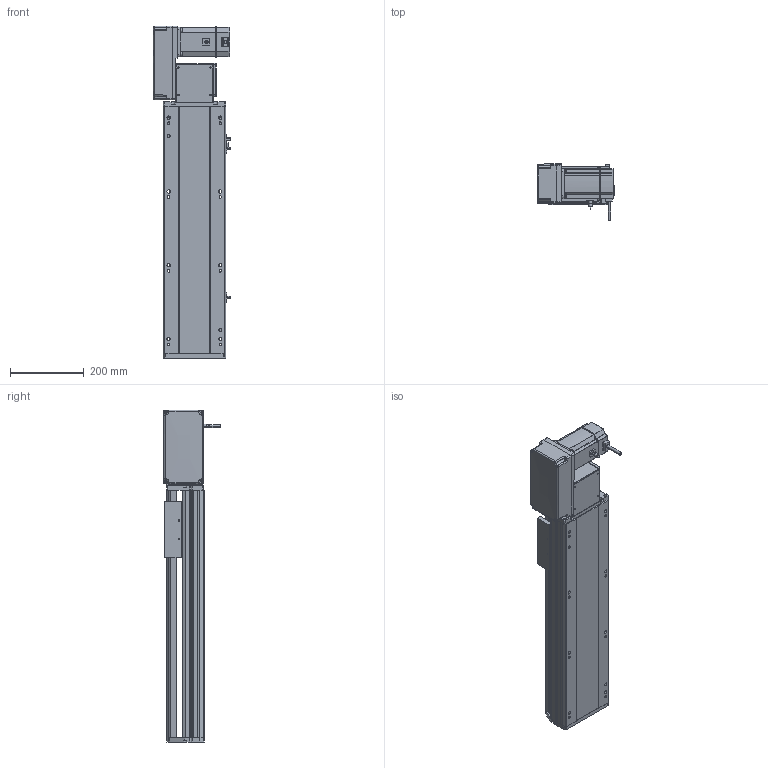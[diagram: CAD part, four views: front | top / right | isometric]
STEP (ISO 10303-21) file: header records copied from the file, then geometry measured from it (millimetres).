
FILE_DESCRIPTION (( 'STEP AP214' ), '1' );
FILE_NAME ('RTB17S-XX-400-L-M75-C4.STEP', '2025-12-12T00:08:30', ( '' ), ( '' ), 'SwSTEP 2.0', 'SolidWorks 2018', '' );
FILE_SCHEMA (( 'AUTOMOTIVE_DESIGN' ));
Length unit declared in the file: millimetre
Products named in the file (15): RTB17S-XX-400-L-M75-C4; 750W萇儂^RTB17S-XX-XX-L-M75-C4; RTB17S-L-007奻裔^RTB17S-XX-XX-L-M75-C4; RTB17S-L-004-賑釱^RTB17S-賑釱_RTB17S-XX-XX-L-M75-C4; RTB17S-L-001-耜醱啣^RTB17S-XX-XX-L-M75-C4; RTB17S-賑釱^RTB17S-XX-XX-L-M75-C4; EE672^RTB17S-XX-XX-L-M75-C4; RTB22S-GY-018P^RTB17S-L-々湍釱蚾饜-750W_RTB17S-XX-XX-L-M75-C4; RTB17S-L-々湍釱蚾饜-750W^RTB17S-XX-XX-L-M75-C4; RTB17-R-011菁釱^RTB17S-XX-XX-L-M75-C4; RTB22S-GY-008-M75--萇儂啣^RTB17S-L-々湍釱蚾饜-750W_RTB17S-XX-XX-L-M75-C4; RTB22S-GY-017P^RTB17S-L-々湍釱蚾饜-750W_RTB17S-XX-XX-L-M75-C4; RMP17S-L-014-T20-P75--々湍釱^RTB17S-L-々湍釱蚾饜-750W_RTB17S-XX-XX-L-M75-C4; RTH13-BL-012覜茼え俋离^RTB17S-賑釱_RTB17S-XX-XX-L-M75-C4; RTB22S-GY-005P^RTB17S-L-々湍釱蚾饜-750W_RTB17S-XX-XX-L-M75-C4
Assembly tree (17 placements, depth 3):
  RTB17S-XX-400-L-M75-C4
    RTB17-R-011菁釱^RTB17S-XX-XX-L-M75-C4
    EE672^RTB17S-XX-XX-L-M75-C4  x3
    RTB17S-L-001-耜醱啣^RTB17S-XX-XX-L-M75-C4
    RTB17S-賑釱^RTB17S-XX-XX-L-M75-C4
      RTB17S-L-004-賑釱^RTB17S-賑釱_RTB17S-XX-XX-L-M75-C4
      RTH13-BL-012覜茼え俋离^RTB17S-賑釱_RTB17S-XX-XX-L-M75-C4
    RTB17S-L-007奻裔^RTB17S-XX-XX-L-M75-C4
    750W萇儂^RTB17S-XX-XX-L-M75-C4
    RTB17S-L-々湍釱蚾饜-750W^RTB17S-XX-XX-L-M75-C4
      RMP17S-L-014-T20-P75--々湍釱^RTB17S-L-々湍釱蚾饜-750W_RTB17S-XX-XX-L-M75-C4
      RTB22S-GY-005P^RTB17S-L-々湍釱蚾饜-750W_RTB17S-XX-XX-L-M75-C4
      RTB22S-GY-017P^RTB17S-L-々湍釱蚾饜-750W_RTB17S-XX-XX-L-M75-C4  x2
      RTB22S-GY-008-M75--萇儂啣^RTB17S-L-々湍釱蚾饜-750W_RTB17S-XX-XX-L-M75-C4
      RTB22S-GY-018P^RTB17S-L-々湍釱蚾饜-750W_RTB17S-XX-XX-L-M75-C4
Bounding box: 210.4 x 152.7 x 899 mm (x, y, z)
Volume: 8453064.9 mm3; surface area: 1333022.2 mm2
Topology: 17 solids, 17 shells, 2041 faces, 5620 edges, 3626 vertices
Faces by surface type: plane 964, cylinder 661, bspline 294, cone 110, sphere 8, torus 4
Entity records: 55798 total; most frequent: CARTESIAN_POINT 16284, ORIENTED_EDGE 8084, DIRECTION 7592, EDGE_CURVE 4042, AXIS2_PLACEMENT_3D 2646, VERTEX_POINT 2630, VECTOR 2300, LINE 2300
